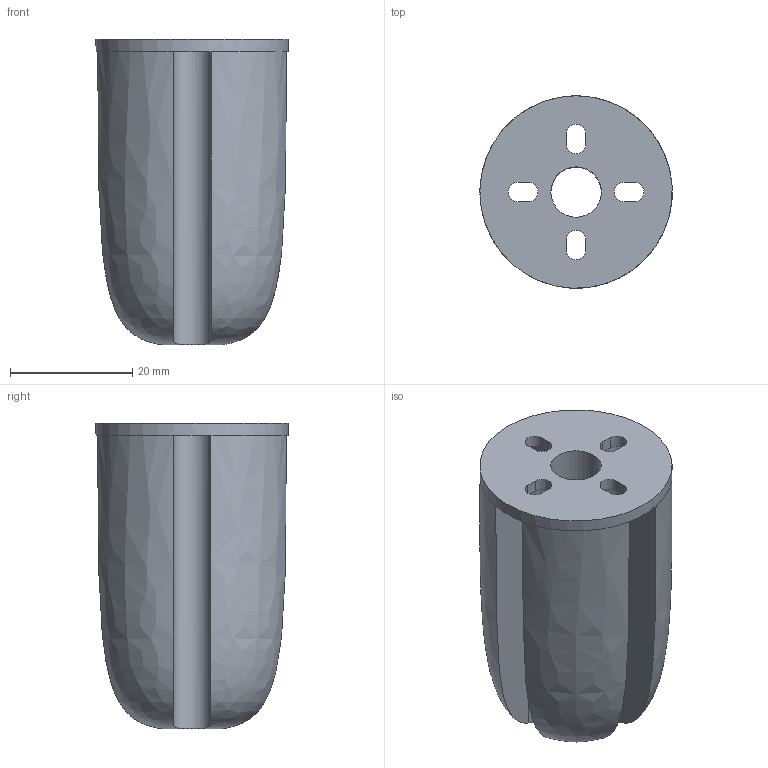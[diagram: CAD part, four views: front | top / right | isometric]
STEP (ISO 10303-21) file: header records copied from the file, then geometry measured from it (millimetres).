
FILE_DESCRIPTION(/* description */ ('STEP AP242','CAx-IF Rec.Pracs.---Representation and Presentation of Product Manufacturing Information (PMI)---4.0---2014-10-13','CAx-IF Rec.Pracs.---3D Tessellated Geometry---0.4---2014-09-14','2;1'),/* implementation_level */ '2;1');
FILE_NAME(/* name */ '679bada95e1bcc04624b9122',/* time_stamp */ '2025-01-30T16:49:46Z',/* author */ (''),/* organization */ (''),/* preprocessor_version */ 'ST-DEVELOPER v20',/* originating_system */ 'ONSHAPE BY PTC INC, 1.192',/* authorisation */ ' ');
FILE_SCHEMA (('AP242_MANAGED_MODEL_BASED_3D_ENGINEERING_MIM_LF { 1 0 10303 442 1 1 4 }'));
Length unit declared in the file: metre
Products named in the file (2): Pied; feet_5_inches
Assembly tree (1 placements, depth 2):
  Pied
    feet_5_inches
Bounding box: 31.46 x 31.49 x 50 mm (x, y, z)
Surface area: 10294.5 mm2 (no closed solid volume)
Topology: 0 solids, 1 shells, 36 faces, 100 edges, 64 vertices
Faces by surface type: plane 21, cylinder 14, bspline 1
Full cylindrical faces by diameter (mm): 8.25 x1, 31.5 x1
Entity records: 1307 total; most frequent: CARTESIAN_POINT 375, DIRECTION 184, ORIENTED_EDGE 182, EDGE_CURVE 91, AXIS2_PLACEMENT_3D 68, VERTEX_POINT 59, LINE 48, VECTOR 48
